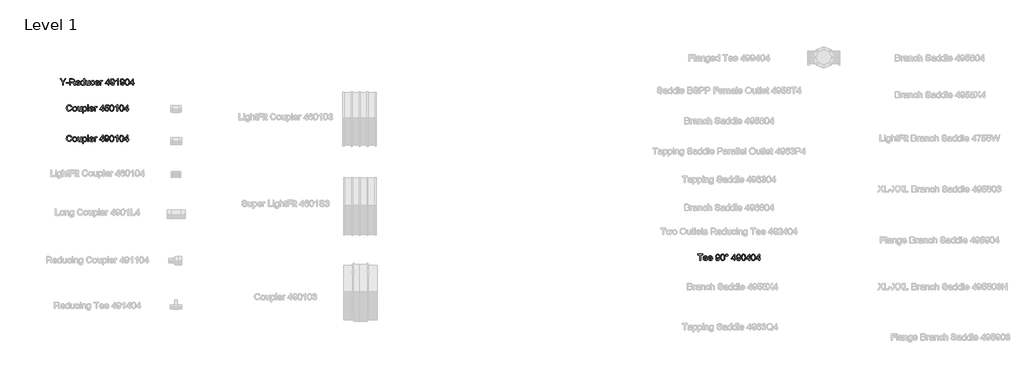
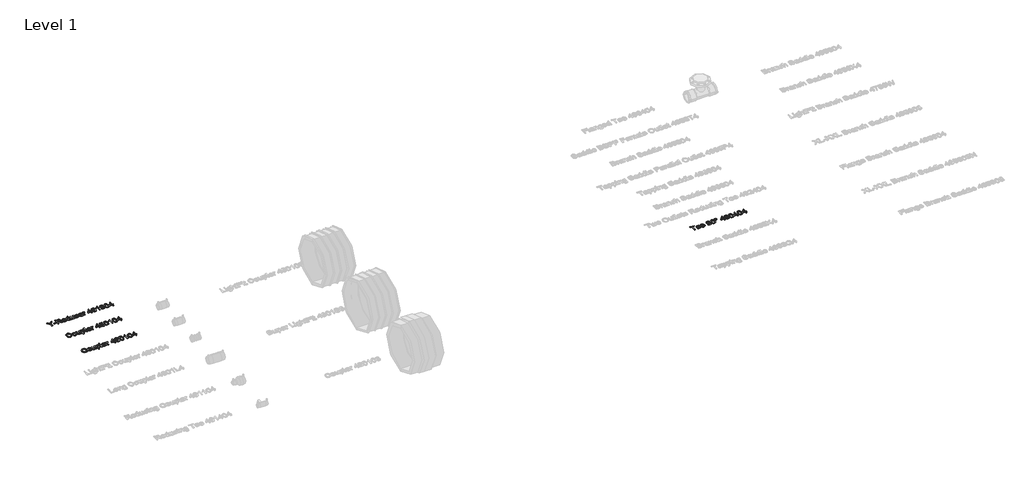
# One storey, part 6 of 38: 4 proxies.
"""IFC4 building model written with IfcOpenShell, lengths in millimetres."""

from ifc_helpers import new_model, si_unit, origin, origin_with_axes, place, context, project, spatial, polyline, outline, extrude, element, save

model = new_model("IFC4")

# Units and contexts
model_context = context("Model", 3, world=origin())
ifc_project = project(units=[si_unit("LENGTHUNIT", "METRE", prefix="MILLI")], contexts=[model_context])

# Site, building, storey
site = spatial("IfcSite", under=ifc_project)
building = spatial("IfcBuilding", under=site)
storey = spatial("IfcBuildingStorey", under=building, Name="Level 1", Elevation=0.0)

# Proxies
placement = place(None, origin())
element("IfcBuildingElementProxy", 1, Name="100 mm Arial", ObjectType="100 mm Arial", at=placement, inside=storey, context=model_context, shape_type="SweptSolid", body=[
    extrude(outline(polyline([(921.7356093, 4714.3643675), (921.7356093, 4739.3884059), (898.6586863, 4773.4412905), (907.3702247, 4773.4412905), (919.6875324, 4755.2537905), (925.990417, 4745.9797521), (932.3077247, 4755.9172521), (943.4856093, 4773.4412905), (952.1971478, 4773.4412905), (929.1202247, 4739.3884059), (929.1202247, 4714.3643675), (921.7356093, 4714.3643675)])), origin_with_axes(), (0.0, 0.0, 1.0), 5.0),
    extrude(outline(polyline([(954.0433016, 4731.902829), (954.0433016, 4739.2874444), (977.1202247, 4739.2874444), (977.1202247, 4731.902829), (954.0433016, 4731.902829)])), origin_with_axes(), (0.0, 0.0, 1.0), 5.0),
    extrude(outline(polyline([(986.3509939, 4714.3643675), (986.3509939, 4773.4412905), (1011.8077247, 4773.4412905), (1023.6274363, 4771.8475405), (1030.0889747, 4766.2081175), (1032.5048401, 4757.2730213), (1028.5024363, 4746.6287905), (1016.1346478, 4741.1335982), (1020.3317632, 4737.9749444), (1026.3173401, 4730.3739828), (1036.1683016, 4714.3643675), (1027.5865709, 4714.3643675), (1019.8990709, 4726.6095598), (1014.3461863, 4734.715329), (1010.4447439, 4738.5446559), (1006.9327247, 4739.9509059), (1002.6490709, 4740.2105213), (993.7356093, 4740.2105213), (993.7356093, 4714.3643675), (986.3509939, 4714.3643675)]), holes=[polyline([(993.7356093, 4747.5951367), (1010.2644555, 4747.5951367), (1018.6947439, 4748.6408098), (1023.4832055, 4751.9869636), (1025.1202247, 4756.9989828), (1021.9976286, 4763.5037905), (1012.1250324, 4766.0566752), (993.7356093, 4766.0566752), (993.7356093, 4747.5951367)])]), origin_with_axes(), (0.0, 0.0, 1.0), 5.0),
    extrude(outline(polyline([(1074.8798401, 4727.2874444), (1082.1202247, 4726.3643675), (1075.3485901, 4716.8307136), (1062.7356093, 4713.4412905), (1054.0709459, 4714.90343), (1047.4038786, 4719.2898482), (1043.1526766, 4726.3156896), (1041.7356093, 4735.6960982), (1043.1670997, 4745.3920117), (1047.4615709, 4752.6432136), (1054.0384939, 4757.1648482), (1062.3173401, 4758.6720598), (1070.3383738, 4757.168454), (1076.7476286, 4752.6576367), (1080.9501526, 4745.4208578), (1082.3509939, 4735.7393675), (1082.3077247, 4733.7489828), (1049.1202247, 4733.7489828), (1053.3678209, 4724.1576367), (1062.8798401, 4720.8259059), (1070.1202247, 4722.3691752), (1074.8798401, 4727.2874444)]), holes=[polyline([(1049.1202247, 4741.1335982), (1074.9663786, 4741.1335982), (1072.0096478, 4747.8259059), (1062.2884939, 4751.2874444), (1053.1947439, 4748.5254252), (1049.1202247, 4741.1335982)])]), origin_with_axes(), (0.0, 0.0, 1.0), 5.0),
    extrude(outline(polyline([(1116.5048401, 4714.3643675), (1116.5048401, 4721.3307136), (1111.6190228, 4715.4136463), (1104.865417, 4713.4412905), (1095.7211863, 4716.2970598), (1089.2596478, 4724.2658098), (1086.9663786, 4736.0134059), (1089.0793593, 4747.7682136), (1095.4110901, 4755.8595598), (1104.8365709, 4758.6720598), (1111.6442632, 4756.6600405), (1116.5048401, 4751.4316752), (1116.5048401, 4773.4412905), (1123.8894555, 4773.4412905), (1123.8894555, 4714.3643675), (1116.5048401, 4714.3643675)]), holes=[polyline([(1094.3509939, 4736.0422521), (1097.6827247, 4724.6119636), (1105.5433016, 4720.8259059), (1113.3101286, 4724.4388867), (1116.5048401, 4735.4797521), (1113.2524363, 4747.465329), (1105.240417, 4751.2874444), (1097.4663786, 4747.6167713), (1094.3509939, 4736.0422521)])]), origin_with_axes(), (0.0, 0.0, 1.0), 5.0),
    extrude(outline(polyline([(1162.6586863, 4714.3643675), (1162.6586863, 4721.8210982), (1156.8750324, 4715.5362425), (1149.3317632, 4713.4412905), (1142.3870516, 4714.9124444), (1137.5985901, 4718.6047521), (1135.3990709, 4724.0422521), (1134.9663786, 4730.9076367), (1134.9663786, 4757.7489828), (1142.3509939, 4757.7489828), (1142.3509939, 4734.3835982), (1142.7981093, 4726.8547521), (1145.7187824, 4722.434079), (1151.2211863, 4720.8259059), (1157.3870516, 4722.4701367), (1161.4615709, 4726.9485021), (1162.6586863, 4735.1768675), (1162.6586863, 4757.7489828), (1170.0433016, 4757.7489828), (1170.0433016, 4714.3643675), (1162.6586863, 4714.3643675)])), origin_with_axes(), (0.0, 0.0, 1.0), 5.0),
    extrude(outline(polyline([(1207.8894555, 4730.0566752), (1215.2740709, 4729.1335982), (1209.3461863, 4717.6023482), (1197.6346478, 4713.4412905), (1189.7794795, 4714.8926127), (1183.6370516, 4719.246579), (1179.6725084, 4726.3120838), (1178.3509939, 4735.8980213), (1180.6082055, 4748.1648482), (1187.4880132, 4756.0470598), (1197.5336863, 4758.6720598), (1208.7620516, 4755.0662905), (1214.3509939, 4744.8259059), (1206.9663786, 4743.902829), (1203.5408978, 4749.434079), (1197.5913786, 4751.2874444), (1189.0312824, 4747.6384059), (1185.7356093, 4736.0999444), (1188.959167, 4724.4533098), (1197.3894555, 4720.8259059), (1204.3485901, 4723.090329), (1207.8894555, 4730.0566752)])), origin_with_axes(), (0.0, 0.0, 1.0), 5.0),
    extrude(outline(polyline([(1252.1106093, 4727.2874444), (1259.3509939, 4726.3643675), (1252.5793593, 4716.8307136), (1239.9663786, 4713.4412905), (1231.3017151, 4714.90343), (1224.6346478, 4719.2898482), (1220.3834459, 4726.3156896), (1218.9663786, 4735.6960982), (1220.3978689, 4745.3920117), (1224.6923401, 4752.6432136), (1231.2692632, 4757.1648482), (1239.5481093, 4758.6720598), (1247.569143, 4757.168454), (1253.9783978, 4752.6576367), (1258.1809218, 4745.4208578), (1259.5817632, 4735.7393675), (1259.5384939, 4733.7489828), (1226.3509939, 4733.7489828), (1230.5985901, 4724.1576367), (1240.1106093, 4720.8259059), (1247.3509939, 4722.3691752), (1252.1106093, 4727.2874444)]), holes=[polyline([(1226.3509939, 4741.1335982), (1252.1971478, 4741.1335982), (1249.240417, 4747.8259059), (1239.5192632, 4751.2874444), (1230.4255132, 4748.5254252), (1226.3509939, 4741.1335982)])]), origin_with_axes(), (0.0, 0.0, 1.0), 5.0),
    extrude(outline(polyline([(1266.9663786, 4714.3643675), (1266.9663786, 4757.7489828), (1273.427917, 4757.7489828), (1273.427917, 4751.3307136), (1278.0144555, 4757.2441752), (1282.6298401, 4758.6720598), (1290.0433016, 4756.3932136), (1287.5769555, 4749.7730213), (1282.3846478, 4751.2874444), (1278.209167, 4749.8307136), (1275.5481093, 4745.7922521), (1274.3509939, 4737.1672521), (1274.3509939, 4714.3643675), (1266.9663786, 4714.3643675)])), origin_with_axes(), (0.0, 0.0, 1.0), 5.0),
    extrude(outline(polyline([(1339.8894555, 4714.3643675), (1339.8894555, 4728.2105213), (1313.1202247, 4728.2105213), (1313.1202247, 4735.5951367), (1341.7356093, 4772.5182136), (1347.2740709, 4772.5182136), (1347.2740709, 4735.5951367), (1354.6586863, 4735.5951367), (1354.6586863, 4728.2105213), (1347.2740709, 4728.2105213), (1347.2740709, 4714.3643675), (1339.8894555, 4714.3643675)]), holes=[polyline([(1339.8894555, 4735.5951367), (1339.8894555, 4758.4124444), (1322.2067632, 4735.5951367), (1339.8894555, 4735.5951367)])]), origin_with_axes(), (0.0, 0.0, 1.0), 5.0),
    extrude(outline(polyline([(1362.0433016, 4729.1335982), (1369.427917, 4730.0566752), (1372.7452247, 4723.0110021), (1379.0336863, 4720.8259059), (1385.0120516, 4722.2321559), (1389.0649363, 4725.9893675), (1391.4808016, 4732.4076367), (1392.5481093, 4740.9749444), (1386.5985901, 4736.8210982), (1378.5000324, 4734.6720598), (1366.1610901, 4739.9220598), (1361.1202247, 4753.7537905), (1366.4062824, 4768.0326367), (1379.6538786, 4773.4412905), (1390.1755132, 4770.3547521), (1397.4158978, 4761.5566752), (1399.8894555, 4745.027829), (1397.4231093, 4727.0927328), (1390.0889747, 4716.9316752), (1378.6875324, 4713.4412905), (1367.3365709, 4717.559079), (1362.0433016, 4729.1335982)]), holes=[polyline([(1392.5048401, 4753.9268675), (1389.3173401, 4762.7826367), (1380.8509939, 4766.0566752), (1371.9663786, 4762.5302328), (1368.5048401, 4753.3932136), (1371.7788786, 4745.2081175), (1380.6490709, 4742.0566752), (1389.1658978, 4745.2081175), (1392.5048401, 4753.9268675)])]), origin_with_axes(), (0.0, 0.0, 1.0), 5.0),
    extrude(outline(polyline([(1434.0433016, 4714.3643675), (1426.6586863, 4714.3643675), (1426.6586863, 4760.402829), (1419.6634939, 4755.4196559), (1411.8894555, 4751.6912905), (1411.8894555, 4758.6720598), (1422.7139747, 4765.5807136), (1429.2836863, 4773.4412905), (1434.0433016, 4773.4412905), (1434.0433016, 4714.3643675)])), origin_with_axes(), (0.0, 0.0, 1.0), 5.0),
    extrude(outline(polyline([(1452.5048401, 4729.1335982), (1459.8894555, 4730.0566752), (1463.2067632, 4723.0110021), (1469.4952247, 4720.8259059), (1475.4735901, 4722.2321559), (1479.5264747, 4725.9893675), (1481.9423401, 4732.4076367), (1483.0096478, 4740.9749444), (1477.0601286, 4736.8210982), (1468.9615709, 4734.6720598), (1456.6226286, 4739.9220598), (1451.5817632, 4753.7537905), (1456.8678209, 4768.0326367), (1470.115417, 4773.4412905), (1480.6370516, 4770.3547521), (1487.8774363, 4761.5566752), (1490.3509939, 4745.027829), (1487.8846478, 4727.0927328), (1480.5505132, 4716.9316752), (1469.1490709, 4713.4412905), (1457.7981093, 4717.559079), (1452.5048401, 4729.1335982)]), holes=[polyline([(1482.9663786, 4753.9268675), (1479.7788786, 4762.7826367), (1471.3125324, 4766.0566752), (1462.427917, 4762.5302328), (1458.9663786, 4753.3932136), (1462.240417, 4745.2081175), (1471.1106093, 4742.0566752), (1479.6274363, 4745.2081175), (1482.9663786, 4753.9268675)])]), origin_with_axes(), (0.0, 0.0, 1.0), 5.0),
    extrude(outline(polyline([(1496.8125324, 4743.4268675), (1498.9832055, 4760.4244636), (1505.4303209, 4770.2249444), (1516.1971478, 4773.4412905), (1524.8221478, 4771.5374444), (1530.7788786, 4766.0494636), (1534.240417, 4757.309079), (1535.5817632, 4743.4268675), (1533.4327247, 4726.5013867), (1527.0072439, 4716.6792713), (1516.1971478, 4713.4412905), (1508.5240709, 4714.8475405), (1502.6971478, 4719.0662905), (1498.2836863, 4729.0578771), (1496.8125324, 4743.4268675)]), holes=[polyline([(1504.1971478, 4743.4412905), (1507.6586863, 4725.1023482), (1516.1971478, 4720.8259059), (1524.7356093, 4725.1167713), (1528.1971478, 4743.4412905), (1524.8509939, 4761.5710982), (1516.1106093, 4766.0566752), (1507.7740709, 4762.1047521), (1504.1971478, 4743.4412905)])]), origin_with_axes(), (0.0, 0.0, 1.0), 5.0),
    extrude(outline(polyline([(1566.0433016, 4714.3643675), (1566.0433016, 4728.2105213), (1539.2740709, 4728.2105213), (1539.2740709, 4735.5951367), (1567.8894555, 4772.5182136), (1573.427917, 4772.5182136), (1573.427917, 4735.5951367), (1580.8125324, 4735.5951367), (1580.8125324, 4728.2105213), (1573.427917, 4728.2105213), (1573.427917, 4714.3643675), (1566.0433016, 4714.3643675)]), holes=[polyline([(1566.0433016, 4735.5951367), (1566.0433016, 4758.4124444), (1548.3606093, 4735.5951367), (1566.0433016, 4735.5951367)])]), origin_with_axes(), (0.0, 0.0, 1.0), 5.0),
])
element("IfcBuildingElementProxy", 2, Name="100 mm Arial", ObjectType="100 mm Arial", at=placement, inside=storey, context=model_context, shape_type="SweptSolid", body=[
    extrude(outline(polyline([(998.8125324, 4495.3643675), (1006.1971478, 4493.4605213), (997.4423401, 4478.5686944), (981.9808016, 4473.4412905), (966.6130132, 4477.3210982), (957.5985901, 4488.5566752), (954.5048401, 4504.3499444), (958.0024363, 4520.402829), (967.9471478, 4530.809079), (982.1394555, 4534.3643675), (996.9303209, 4529.7634059), (1005.2740709, 4516.8114828), (997.8894555, 4515.0518675), (991.8317632, 4524.1311944), (981.8509939, 4526.9797521), (970.2981093, 4523.8210982), (963.771667, 4515.340329), (961.8894555, 4504.3643675), (964.1178209, 4491.6432136), (971.0553209, 4483.5158098), (981.2452247, 4480.8259059), (992.5457055, 4484.4893675), (998.8125324, 4495.3643675)])), origin_with_axes(), (0.0, 0.0, 1.0), 5.0),
    extrude(outline(polyline([(1013.5817632, 4496.0566752), (1015.1791189, 4506.5170117), (1019.9711863, 4513.8691752), (1032.9808016, 4518.6720598), (1040.7386141, 4517.2099203), (1046.9351286, 4512.8235021), (1050.9970276, 4505.8589588), (1052.3509939, 4496.6624444), (1049.9567632, 4483.5230213), (1042.9832055, 4476.0879252), (1032.9808016, 4473.4412905), (1025.1292391, 4474.8980213), (1018.9399363, 4479.2682136), (1014.9213064, 4486.3787905), (1013.5817632, 4496.0566752)]), holes=[polyline([(1020.9663786, 4496.0710982), (1024.3846478, 4484.6263867), (1032.9808016, 4480.8259059), (1041.5481093, 4484.6480213), (1044.9663786, 4496.3018675), (1041.5264747, 4507.4869636), (1032.9808016, 4511.2874444), (1024.3846478, 4507.5013867), (1020.9663786, 4496.0710982)])]), origin_with_axes(), (0.0, 0.0, 1.0), 5.0),
    extrude(outline(polyline([(1088.3509939, 4474.3643675), (1088.3509939, 4481.8210982), (1082.5673401, 4475.5362425), (1075.0240709, 4473.4412905), (1068.0793593, 4474.9124444), (1063.2908978, 4478.6047521), (1061.0913786, 4484.0422521), (1060.6586863, 4490.9076367), (1060.6586863, 4517.7489828), (1068.0433016, 4517.7489828), (1068.0433016, 4494.3835982), (1068.490417, 4486.8547521), (1071.4110901, 4482.434079), (1076.9134939, 4480.8259059), (1083.0793593, 4482.4701367), (1087.1538786, 4486.9485021), (1088.3509939, 4495.1768675), (1088.3509939, 4517.7489828), (1095.7356093, 4517.7489828), (1095.7356093, 4474.3643675), (1088.3509939, 4474.3643675)])), origin_with_axes(), (0.0, 0.0, 1.0), 5.0),
    extrude(outline(polyline([(1105.8894555, 4457.7489828), (1105.8894555, 4517.7489828), (1113.2740709, 4517.7489828), (1113.2740709, 4510.5085982), (1118.3798401, 4516.6311944), (1125.2740709, 4518.6720598), (1134.6346478, 4515.8162905), (1140.7500324, 4507.7682136), (1142.8125324, 4496.3884059), (1140.4832055, 4484.4244636), (1133.7187824, 4476.2754252), (1124.3798401, 4473.4412905), (1117.9543593, 4475.3379252), (1113.2740709, 4480.1335982), (1113.2740709, 4457.7489828), (1105.8894555, 4457.7489828)]), holes=[polyline([(1113.2740709, 4495.7105213), (1116.4687824, 4484.4605213), (1124.2211863, 4480.8259059), (1132.1322439, 4484.590329), (1135.427917, 4496.2585982), (1132.2115709, 4507.5374444), (1124.5240709, 4511.2874444), (1116.6851286, 4507.2994636), (1113.2740709, 4495.7105213)])]), origin_with_axes(), (0.0, 0.0, 1.0), 5.0),
    extrude(outline(polyline([(1151.1202247, 4474.3643675), (1151.1202247, 4533.4412905), (1158.5048401, 4533.4412905), (1158.5048401, 4474.3643675), (1151.1202247, 4474.3643675)])), origin_with_axes(), (0.0, 0.0, 1.0), 5.0),
    extrude(outline(polyline([(1199.9567632, 4487.2874444), (1207.1971478, 4486.3643675), (1200.4255132, 4476.8307136), (1187.8125324, 4473.4412905), (1179.1478689, 4474.90343), (1172.4808016, 4479.2898482), (1168.2295997, 4486.3156896), (1166.8125324, 4495.6960982), (1168.2440228, 4505.3920117), (1172.5384939, 4512.6432136), (1179.115417, 4517.1648482), (1187.3942632, 4518.6720598), (1195.4152968, 4517.168454), (1201.8245516, 4512.6576367), (1206.0270757, 4505.4208578), (1207.427917, 4495.7393675), (1207.3846478, 4493.7489828), (1174.1971478, 4493.7489828), (1178.4447439, 4484.1576367), (1187.9567632, 4480.8259059), (1195.1971478, 4482.3691752), (1199.9567632, 4487.2874444)]), holes=[polyline([(1174.1971478, 4501.1335982), (1200.0433016, 4501.1335982), (1197.0865709, 4507.8259059), (1187.365417, 4511.2874444), (1178.271667, 4508.5254252), (1174.1971478, 4501.1335982)])]), origin_with_axes(), (0.0, 0.0, 1.0), 5.0),
    extrude(outline(polyline([(1214.8125324, 4474.3643675), (1214.8125324, 4517.7489828), (1221.2740709, 4517.7489828), (1221.2740709, 4511.3307136), (1225.8606093, 4517.2441752), (1230.4759939, 4518.6720598), (1237.8894555, 4516.3932136), (1235.4231093, 4509.7730213), (1230.2308016, 4511.2874444), (1226.0553209, 4509.8307136), (1223.3942632, 4505.7922521), (1222.1971478, 4497.1672521), (1222.1971478, 4474.3643675), (1214.8125324, 4474.3643675)])), origin_with_axes(), (0.0, 0.0, 1.0), 5.0),
    extrude(outline(polyline([(1287.7356093, 4474.3643675), (1287.7356093, 4488.2105213), (1260.9663786, 4488.2105213), (1260.9663786, 4495.5951367), (1289.5817632, 4532.5182136), (1295.1202247, 4532.5182136), (1295.1202247, 4495.5951367), (1302.5048401, 4495.5951367), (1302.5048401, 4488.2105213), (1295.1202247, 4488.2105213), (1295.1202247, 4474.3643675), (1287.7356093, 4474.3643675)]), holes=[polyline([(1287.7356093, 4495.5951367), (1287.7356093, 4518.4124444), (1270.052917, 4495.5951367), (1287.7356093, 4495.5951367)])]), origin_with_axes(), (0.0, 0.0, 1.0), 5.0),
    extrude(outline(polyline([(1308.9663786, 4490.0566752), (1316.3509939, 4490.9797521), (1320.0721478, 4483.371579), (1327.7884939, 4480.8259059), (1337.0481093, 4484.3667713), (1340.3509939, 4493.7634059), (1337.2572439, 4502.5326367), (1327.9038786, 4505.7489828), (1321.4207055, 4504.465329), (1317.2740709, 4501.1335982), (1309.8894555, 4502.0566752), (1316.3509939, 4532.5182136), (1344.9663786, 4532.5182136), (1344.9663786, 4525.1335982), (1322.3221478, 4525.1335982), (1319.1634939, 4508.8643675), (1329.9663786, 4513.1335982), (1342.5937824, 4507.840329), (1347.7356093, 4494.2249444), (1343.1058016, 4480.5230213), (1336.4567632, 4475.2117232), (1327.7596478, 4473.4412905), (1314.7283978, 4477.9917713), (1308.9663786, 4490.0566752)])), origin_with_axes(), (0.0, 0.0, 1.0), 5.0),
    extrude(outline(polyline([(1354.1971478, 4503.4268675), (1356.3678209, 4520.4244636), (1362.8149363, 4530.2249444), (1373.5817632, 4533.4412905), (1382.2067632, 4531.5374444), (1388.1634939, 4526.0494636), (1391.6250324, 4517.309079), (1392.9663786, 4503.4268675), (1390.8173401, 4486.5013867), (1384.3918593, 4476.6792713), (1373.5817632, 4473.4412905), (1365.9086863, 4474.8475405), (1360.0817632, 4479.0662905), (1355.6683016, 4489.0578771), (1354.1971478, 4503.4268675)]), holes=[polyline([(1361.5817632, 4503.4412905), (1365.0433016, 4485.1023482), (1373.5817632, 4480.8259059), (1382.1202247, 4485.1167713), (1385.5817632, 4503.4412905), (1382.2356093, 4521.5710982), (1373.4952247, 4526.0566752), (1365.1586863, 4522.1047521), (1361.5817632, 4503.4412905)])]), origin_with_axes(), (0.0, 0.0, 1.0), 5.0),
    extrude(outline(polyline([(1427.1202247, 4474.3643675), (1419.7356093, 4474.3643675), (1419.7356093, 4520.402829), (1412.740417, 4515.4196559), (1404.9663786, 4511.6912905), (1404.9663786, 4518.6720598), (1415.7908978, 4525.5807136), (1422.3606093, 4533.4412905), (1427.1202247, 4533.4412905), (1427.1202247, 4474.3643675)])), origin_with_axes(), (0.0, 0.0, 1.0), 5.0),
    extrude(outline(polyline([(1444.6586863, 4503.4268675), (1446.8293593, 4520.4244636), (1453.2764747, 4530.2249444), (1464.0433016, 4533.4412905), (1472.6683016, 4531.5374444), (1478.6250324, 4526.0494636), (1482.0865709, 4517.309079), (1483.427917, 4503.4268675), (1481.2788786, 4486.5013867), (1474.8533978, 4476.6792713), (1464.0433016, 4473.4412905), (1456.3702247, 4474.8475405), (1450.5433016, 4479.0662905), (1446.1298401, 4489.0578771), (1444.6586863, 4503.4268675)]), holes=[polyline([(1452.0433016, 4503.4412905), (1455.5048401, 4485.1023482), (1464.0433016, 4480.8259059), (1472.5817632, 4485.1167713), (1476.0433016, 4503.4412905), (1472.6971478, 4521.5710982), (1463.9567632, 4526.0566752), (1455.6202247, 4522.1047521), (1452.0433016, 4503.4412905)])]), origin_with_axes(), (0.0, 0.0, 1.0), 5.0),
    extrude(outline(polyline([(1513.8894555, 4474.3643675), (1513.8894555, 4488.2105213), (1487.1202247, 4488.2105213), (1487.1202247, 4495.5951367), (1515.7356093, 4532.5182136), (1521.2740709, 4532.5182136), (1521.2740709, 4495.5951367), (1528.6586863, 4495.5951367), (1528.6586863, 4488.2105213), (1521.2740709, 4488.2105213), (1521.2740709, 4474.3643675), (1513.8894555, 4474.3643675)]), holes=[polyline([(1513.8894555, 4495.5951367), (1513.8894555, 4518.4124444), (1496.2067632, 4495.5951367), (1513.8894555, 4495.5951367)])]), origin_with_axes(), (0.0, 0.0, 1.0), 5.0),
])
element("IfcBuildingElementProxy", 3, Name="100 mm Arial", ObjectType="100 mm Arial", at=placement, inside=storey, context=model_context, shape_type="SweptSolid", body=[
    extrude(outline(polyline([(998.8125324, 4215.3643675), (1006.1971478, 4213.4605213), (997.4423401, 4198.5686944), (981.9808016, 4193.4412905), (966.6130132, 4197.3210982), (957.5985901, 4208.5566752), (954.5048401, 4224.3499444), (958.0024363, 4240.402829), (967.9471478, 4250.809079), (982.1394555, 4254.3643675), (996.9303209, 4249.7634059), (1005.2740709, 4236.8114828), (997.8894555, 4235.0518675), (991.8317632, 4244.1311944), (981.8509939, 4246.9797521), (970.2981093, 4243.8210982), (963.771667, 4235.340329), (961.8894555, 4224.3643675), (964.1178209, 4211.6432136), (971.0553209, 4203.5158098), (981.2452247, 4200.8259059), (992.5457055, 4204.4893675), (998.8125324, 4215.3643675)])), origin_with_axes(), (0.0, 0.0, 1.0), 5.0),
    extrude(outline(polyline([(1013.5817632, 4216.0566752), (1015.1791189, 4226.5170117), (1019.9711863, 4233.8691752), (1032.9808016, 4238.6720598), (1040.7386141, 4237.2099203), (1046.9351286, 4232.8235021), (1050.9970276, 4225.8589588), (1052.3509939, 4216.6624444), (1049.9567632, 4203.5230213), (1042.9832055, 4196.0879252), (1032.9808016, 4193.4412905), (1025.1292391, 4194.8980213), (1018.9399363, 4199.2682136), (1014.9213064, 4206.3787905), (1013.5817632, 4216.0566752)]), holes=[polyline([(1020.9663786, 4216.0710982), (1024.3846478, 4204.6263867), (1032.9808016, 4200.8259059), (1041.5481093, 4204.6480213), (1044.9663786, 4216.3018675), (1041.5264747, 4227.4869636), (1032.9808016, 4231.2874444), (1024.3846478, 4227.5013867), (1020.9663786, 4216.0710982)])]), origin_with_axes(), (0.0, 0.0, 1.0), 5.0),
    extrude(outline(polyline([(1088.3509939, 4194.3643675), (1088.3509939, 4201.8210982), (1082.5673401, 4195.5362425), (1075.0240709, 4193.4412905), (1068.0793593, 4194.9124444), (1063.2908978, 4198.6047521), (1061.0913786, 4204.0422521), (1060.6586863, 4210.9076367), (1060.6586863, 4237.7489828), (1068.0433016, 4237.7489828), (1068.0433016, 4214.3835982), (1068.490417, 4206.8547521), (1071.4110901, 4202.434079), (1076.9134939, 4200.8259059), (1083.0793593, 4202.4701367), (1087.1538786, 4206.9485021), (1088.3509939, 4215.1768675), (1088.3509939, 4237.7489828), (1095.7356093, 4237.7489828), (1095.7356093, 4194.3643675), (1088.3509939, 4194.3643675)])), origin_with_axes(), (0.0, 0.0, 1.0), 5.0),
    extrude(outline(polyline([(1105.8894555, 4177.7489828), (1105.8894555, 4237.7489828), (1113.2740709, 4237.7489828), (1113.2740709, 4230.5085982), (1118.3798401, 4236.6311944), (1125.2740709, 4238.6720598), (1134.6346478, 4235.8162905), (1140.7500324, 4227.7682136), (1142.8125324, 4216.3884059), (1140.4832055, 4204.4244636), (1133.7187824, 4196.2754252), (1124.3798401, 4193.4412905), (1117.9543593, 4195.3379252), (1113.2740709, 4200.1335982), (1113.2740709, 4177.7489828), (1105.8894555, 4177.7489828)]), holes=[polyline([(1113.2740709, 4215.7105213), (1116.4687824, 4204.4605213), (1124.2211863, 4200.8259059), (1132.1322439, 4204.590329), (1135.427917, 4216.2585982), (1132.2115709, 4227.5374444), (1124.5240709, 4231.2874444), (1116.6851286, 4227.2994636), (1113.2740709, 4215.7105213)])]), origin_with_axes(), (0.0, 0.0, 1.0), 5.0),
    extrude(outline(polyline([(1151.1202247, 4194.3643675), (1151.1202247, 4253.4412905), (1158.5048401, 4253.4412905), (1158.5048401, 4194.3643675), (1151.1202247, 4194.3643675)])), origin_with_axes(), (0.0, 0.0, 1.0), 5.0),
    extrude(outline(polyline([(1199.9567632, 4207.2874444), (1207.1971478, 4206.3643675), (1200.4255132, 4196.8307136), (1187.8125324, 4193.4412905), (1179.1478689, 4194.90343), (1172.4808016, 4199.2898482), (1168.2295997, 4206.3156896), (1166.8125324, 4215.6960982), (1168.2440228, 4225.3920117), (1172.5384939, 4232.6432136), (1179.115417, 4237.1648482), (1187.3942632, 4238.6720598), (1195.4152968, 4237.168454), (1201.8245516, 4232.6576367), (1206.0270757, 4225.4208578), (1207.427917, 4215.7393675), (1207.3846478, 4213.7489828), (1174.1971478, 4213.7489828), (1178.4447439, 4204.1576367), (1187.9567632, 4200.8259059), (1195.1971478, 4202.3691752), (1199.9567632, 4207.2874444)]), holes=[polyline([(1174.1971478, 4221.1335982), (1200.0433016, 4221.1335982), (1197.0865709, 4227.8259059), (1187.365417, 4231.2874444), (1178.271667, 4228.5254252), (1174.1971478, 4221.1335982)])]), origin_with_axes(), (0.0, 0.0, 1.0), 5.0),
    extrude(outline(polyline([(1214.8125324, 4194.3643675), (1214.8125324, 4237.7489828), (1221.2740709, 4237.7489828), (1221.2740709, 4231.3307136), (1225.8606093, 4237.2441752), (1230.4759939, 4238.6720598), (1237.8894555, 4236.3932136), (1235.4231093, 4229.7730213), (1230.2308016, 4231.2874444), (1226.0553209, 4229.8307136), (1223.3942632, 4225.7922521), (1222.1971478, 4217.1672521), (1222.1971478, 4194.3643675), (1214.8125324, 4194.3643675)])), origin_with_axes(), (0.0, 0.0, 1.0), 5.0),
    extrude(outline(polyline([(1287.7356093, 4194.3643675), (1287.7356093, 4208.2105213), (1260.9663786, 4208.2105213), (1260.9663786, 4215.5951367), (1289.5817632, 4252.5182136), (1295.1202247, 4252.5182136), (1295.1202247, 4215.5951367), (1302.5048401, 4215.5951367), (1302.5048401, 4208.2105213), (1295.1202247, 4208.2105213), (1295.1202247, 4194.3643675), (1287.7356093, 4194.3643675)]), holes=[polyline([(1287.7356093, 4215.5951367), (1287.7356093, 4238.4124444), (1270.052917, 4215.5951367), (1287.7356093, 4215.5951367)])]), origin_with_axes(), (0.0, 0.0, 1.0), 5.0),
    extrude(outline(polyline([(1309.8894555, 4209.1335982), (1317.2740709, 4210.0566752), (1320.5913786, 4203.0110021), (1326.8798401, 4200.8259059), (1332.8582055, 4202.2321559), (1336.9110901, 4205.9893675), (1339.3269555, 4212.4076367), (1340.3942632, 4220.9749444), (1334.4447439, 4216.8210982), (1326.3461863, 4214.6720598), (1314.0072439, 4219.9220598), (1308.9663786, 4233.7537905), (1314.2524363, 4248.0326367), (1327.5000324, 4253.4412905), (1338.021667, 4250.3547521), (1345.2620516, 4241.5566752), (1347.7356093, 4225.027829), (1345.2692632, 4207.0927328), (1337.9351286, 4196.9316752), (1326.5336863, 4193.4412905), (1315.1827247, 4197.559079), (1309.8894555, 4209.1335982)]), holes=[polyline([(1340.3509939, 4233.9268675), (1337.1634939, 4242.7826367), (1328.6971478, 4246.0566752), (1319.8125324, 4242.5302328), (1316.3509939, 4233.3932136), (1319.6250324, 4225.2081175), (1328.4952247, 4222.0566752), (1337.0120516, 4225.2081175), (1340.3509939, 4233.9268675)])]), origin_with_axes(), (0.0, 0.0, 1.0), 5.0),
    extrude(outline(polyline([(1354.1971478, 4223.4268675), (1356.3678209, 4240.4244636), (1362.8149363, 4250.2249444), (1373.5817632, 4253.4412905), (1382.2067632, 4251.5374444), (1388.1634939, 4246.0494636), (1391.6250324, 4237.309079), (1392.9663786, 4223.4268675), (1390.8173401, 4206.5013867), (1384.3918593, 4196.6792713), (1373.5817632, 4193.4412905), (1365.9086863, 4194.8475405), (1360.0817632, 4199.0662905), (1355.6683016, 4209.0578771), (1354.1971478, 4223.4268675)]), holes=[polyline([(1361.5817632, 4223.4412905), (1365.0433016, 4205.1023482), (1373.5817632, 4200.8259059), (1382.1202247, 4205.1167713), (1385.5817632, 4223.4412905), (1382.2356093, 4241.5710982), (1373.4952247, 4246.0566752), (1365.1586863, 4242.1047521), (1361.5817632, 4223.4412905)])]), origin_with_axes(), (0.0, 0.0, 1.0), 5.0),
    extrude(outline(polyline([(1427.1202247, 4194.3643675), (1419.7356093, 4194.3643675), (1419.7356093, 4240.402829), (1412.740417, 4235.4196559), (1404.9663786, 4231.6912905), (1404.9663786, 4238.6720598), (1415.7908978, 4245.5807136), (1422.3606093, 4253.4412905), (1427.1202247, 4253.4412905), (1427.1202247, 4194.3643675)])), origin_with_axes(), (0.0, 0.0, 1.0), 5.0),
    extrude(outline(polyline([(1444.6586863, 4223.4268675), (1446.8293593, 4240.4244636), (1453.2764747, 4250.2249444), (1464.0433016, 4253.4412905), (1472.6683016, 4251.5374444), (1478.6250324, 4246.0494636), (1482.0865709, 4237.309079), (1483.427917, 4223.4268675), (1481.2788786, 4206.5013867), (1474.8533978, 4196.6792713), (1464.0433016, 4193.4412905), (1456.3702247, 4194.8475405), (1450.5433016, 4199.0662905), (1446.1298401, 4209.0578771), (1444.6586863, 4223.4268675)]), holes=[polyline([(1452.0433016, 4223.4412905), (1455.5048401, 4205.1023482), (1464.0433016, 4200.8259059), (1472.5817632, 4205.1167713), (1476.0433016, 4223.4412905), (1472.6971478, 4241.5710982), (1463.9567632, 4246.0566752), (1455.6202247, 4242.1047521), (1452.0433016, 4223.4412905)])]), origin_with_axes(), (0.0, 0.0, 1.0), 5.0),
    extrude(outline(polyline([(1513.8894555, 4194.3643675), (1513.8894555, 4208.2105213), (1487.1202247, 4208.2105213), (1487.1202247, 4215.5951367), (1515.7356093, 4252.5182136), (1521.2740709, 4252.5182136), (1521.2740709, 4215.5951367), (1528.6586863, 4215.5951367), (1528.6586863, 4208.2105213), (1521.2740709, 4208.2105213), (1521.2740709, 4194.3643675), (1513.8894555, 4194.3643675)]), holes=[polyline([(1513.8894555, 4215.5951367), (1513.8894555, 4238.4124444), (1496.2067632, 4215.5951367), (1513.8894555, 4215.5951367)])]), origin_with_axes(), (0.0, 0.0, 1.0), 5.0),
])
element("IfcBuildingElementProxy", 4, Name="100 mm Arial", ObjectType="100 mm Arial", at=placement, inside=storey, context=model_context, shape_type="SweptSolid", body=[
    extrude(outline(polyline([(6789.8269995, 3097.5779735), (6789.8269995, 3149.2702812), (6770.4423841, 3149.2702812), (6770.4423841, 3156.6548966), (6816.5962303, 3156.6548966), (6816.5962303, 3149.2702812), (6797.2116149, 3149.2702812), (6797.2116149, 3097.5779735), (6789.8269995, 3097.5779735)])), origin_with_axes(), (0.0, 0.0, 1.0), 5.0),
    extrude(outline(polyline([(6854.3558456, 3110.5010505), (6861.5962303, 3109.5779735), (6854.8245956, 3100.0443197), (6842.2116149, 3096.6548966), (6833.5469514, 3098.117036), (6826.8798841, 3102.5034543), (6822.6286822, 3109.5292957), (6821.2116149, 3118.9097043), (6822.6431053, 3128.6056178), (6826.9375764, 3135.8568197), (6833.5144995, 3140.3784543), (6841.7933456, 3141.8856658), (6849.8143793, 3140.3820601), (6856.2236341, 3135.8712428), (6860.4261581, 3128.6344639), (6861.8269995, 3118.9529735), (6861.7837303, 3116.9625889), (6828.5962303, 3116.9625889), (6832.8438264, 3107.3712428), (6842.3558456, 3104.039512), (6849.5962303, 3105.5827812), (6854.3558456, 3110.5010505)]), holes=[polyline([(6828.5962303, 3124.3472043), (6854.4423841, 3124.3472043), (6851.4856533, 3131.039512), (6841.7644995, 3134.5010505), (6832.6707495, 3131.7390312), (6828.5962303, 3124.3472043)])]), origin_with_axes(), (0.0, 0.0, 1.0), 5.0),
    extrude(outline(polyline([(6899.5866149, 3110.5010505), (6906.8269995, 3109.5779735), (6900.0553649, 3100.0443197), (6887.4423841, 3096.6548966), (6878.7777206, 3098.117036), (6872.1106533, 3102.5034543), (6867.8594514, 3109.5292957), (6866.4423841, 3118.9097043), (6867.8738745, 3128.6056178), (6872.1683456, 3135.8568197), (6878.7452687, 3140.3784543), (6887.0241149, 3141.8856658), (6895.0451485, 3140.3820601), (6901.4544033, 3135.8712428), (6905.6569274, 3128.6344639), (6907.0577687, 3118.9529735), (6907.0144995, 3116.9625889), (6873.8269995, 3116.9625889), (6878.0745956, 3107.3712428), (6887.5866149, 3104.039512), (6894.8269995, 3105.5827812), (6899.5866149, 3110.5010505)]), holes=[polyline([(6873.8269995, 3124.3472043), (6899.6731533, 3124.3472043), (6896.7164226, 3131.039512), (6886.9952687, 3134.5010505), (6877.9015187, 3131.7390312), (6873.8269995, 3124.3472043)])]), origin_with_axes(), (0.0, 0.0, 1.0), 5.0),
    extrude(outline(polyline([(6936.5962303, 3112.3472043), (6943.9808456, 3113.2702812), (6947.2981533, 3106.2246082), (6953.5866149, 3104.039512), (6959.5649803, 3105.445762), (6963.6178649, 3109.2029735), (6966.0337303, 3115.6212428), (6967.101038, 3124.1885505), (6961.1515187, 3120.0347043), (6953.052961, 3117.8856658), (6940.7140187, 3123.1356658), (6935.6731533, 3136.9673966), (6940.959211, 3151.2462428), (6954.2068072, 3156.6548966), (6964.7284418, 3153.5683582), (6971.9688264, 3144.7702812), (6974.4423841, 3128.2414351), (6971.976038, 3110.3063389), (6964.6419033, 3100.1452812), (6953.240461, 3096.6548966), (6941.8894995, 3100.7726851), (6936.5962303, 3112.3472043)]), holes=[polyline([(6967.0577687, 3137.1404735), (6963.8702687, 3145.9962428), (6955.4039226, 3149.2702812), (6946.5193072, 3145.7438389), (6943.0577687, 3136.6068197), (6946.3318072, 3128.4217235), (6955.2019995, 3125.2702812), (6963.7188264, 3128.4217235), (6967.0577687, 3137.1404735)])]), origin_with_axes(), (0.0, 0.0, 1.0), 5.0),
    extrude(outline(polyline([(6980.9039226, 3126.6404735), (6983.0745956, 3143.6380697), (6989.521711, 3153.4385505), (7000.288538, 3156.6548966), (7008.913538, 3154.7510505), (7014.8702687, 3149.2630697), (7018.3318072, 3140.5226851), (7019.6731533, 3126.6404735), (7017.5241149, 3109.7149928), (7011.0986341, 3099.8928774), (7000.288538, 3096.6548966), (6992.615461, 3098.0611466), (6986.788538, 3102.2798966), (6982.3750764, 3112.2714832), (6980.9039226, 3126.6404735)]), holes=[polyline([(6988.288538, 3126.6548966), (6991.7500764, 3108.3159543), (7000.288538, 3104.039512), (7008.8269995, 3108.3303774), (7012.288538, 3126.6548966), (7008.9423841, 3144.7847043), (7000.2019995, 3149.2702812), (6991.865461, 3145.3183582), (6988.288538, 3126.6548966)])]), origin_with_axes(), (0.0, 0.0, 1.0), 5.0),
    extrude(outline(polyline([(7027.9808456, 3146.5154735), (7031.2332495, 3154.3472043), (7039.0433456, 3157.5779735), (7046.9039226, 3154.3472043), (7050.1346918, 3146.5154735), (7046.882288, 3138.6765312), (7039.0433456, 3135.4241274), (7031.2332495, 3138.6548966), (7027.9808456, 3146.5154735)]), holes=[polyline([(7032.5962303, 3146.5010505), (7034.4928649, 3141.9289351), (7039.0721918, 3140.039512), (7043.6226726, 3141.9289351), (7045.5193072, 3146.5010505), (7043.6226726, 3151.0731658), (7039.0721918, 3152.9625889), (7034.4928649, 3151.0731658), (7032.5962303, 3146.5010505)])]), origin_with_axes(), (0.0, 0.0, 1.0), 5.0),
    extrude(outline(polyline([(7106.4423841, 3097.5779735), (7106.4423841, 3111.4241274), (7079.6731533, 3111.4241274), (7079.6731533, 3118.8087428), (7108.288538, 3155.7318197), (7113.8269995, 3155.7318197), (7113.8269995, 3118.8087428), (7121.2116149, 3118.8087428), (7121.2116149, 3111.4241274), (7113.8269995, 3111.4241274), (7113.8269995, 3097.5779735), (7106.4423841, 3097.5779735)]), holes=[polyline([(7106.4423841, 3118.8087428), (7106.4423841, 3141.6260505), (7088.7596918, 3118.8087428), (7106.4423841, 3118.8087428)])]), origin_with_axes(), (0.0, 0.0, 1.0), 5.0),
    extrude(outline(polyline([(7128.5962303, 3112.3472043), (7135.9808456, 3113.2702812), (7139.2981533, 3106.2246082), (7145.5866149, 3104.039512), (7151.5649803, 3105.445762), (7155.6178649, 3109.2029735), (7158.0337303, 3115.6212428), (7159.101038, 3124.1885505), (7153.1515187, 3120.0347043), (7145.052961, 3117.8856658), (7132.7140187, 3123.1356658), (7127.6731533, 3136.9673966), (7132.959211, 3151.2462428), (7146.2068072, 3156.6548966), (7156.7284418, 3153.5683582), (7163.9688264, 3144.7702812), (7166.4423841, 3128.2414351), (7163.976038, 3110.3063389), (7156.6419033, 3100.1452812), (7145.240461, 3096.6548966), (7133.8894995, 3100.7726851), (7128.5962303, 3112.3472043)]), holes=[polyline([(7159.0577687, 3137.1404735), (7155.8702687, 3145.9962428), (7147.4039226, 3149.2702812), (7138.5193072, 3145.7438389), (7135.0577687, 3136.6068197), (7138.3318072, 3128.4217235), (7147.2019995, 3125.2702812), (7155.7188264, 3128.4217235), (7159.0577687, 3137.1404735)])]), origin_with_axes(), (0.0, 0.0, 1.0), 5.0),
    extrude(outline(polyline([(7172.9039226, 3126.6404735), (7175.0745956, 3143.6380697), (7181.521711, 3153.4385505), (7192.288538, 3156.6548966), (7200.913538, 3154.7510505), (7206.8702687, 3149.2630697), (7210.3318072, 3140.5226851), (7211.6731533, 3126.6404735), (7209.5241149, 3109.7149928), (7203.0986341, 3099.8928774), (7192.288538, 3096.6548966), (7184.615461, 3098.0611466), (7178.788538, 3102.2798966), (7174.3750764, 3112.2714832), (7172.9039226, 3126.6404735)]), holes=[polyline([(7180.288538, 3126.6548966), (7183.7500764, 3108.3159543), (7192.288538, 3104.039512), (7200.8269995, 3108.3303774), (7204.288538, 3126.6548966), (7200.9423841, 3144.7847043), (7192.2019995, 3149.2702812), (7183.865461, 3145.3183582), (7180.288538, 3126.6548966)])]), origin_with_axes(), (0.0, 0.0, 1.0), 5.0),
    extrude(outline(polyline([(7242.1346918, 3097.5779735), (7242.1346918, 3111.4241274), (7215.365461, 3111.4241274), (7215.365461, 3118.8087428), (7243.9808456, 3155.7318197), (7249.5193072, 3155.7318197), (7249.5193072, 3118.8087428), (7256.9039226, 3118.8087428), (7256.9039226, 3111.4241274), (7249.5193072, 3111.4241274), (7249.5193072, 3097.5779735), (7242.1346918, 3097.5779735)]), holes=[polyline([(7242.1346918, 3118.8087428), (7242.1346918, 3141.6260505), (7224.4519995, 3118.8087428), (7242.1346918, 3118.8087428)])]), origin_with_axes(), (0.0, 0.0, 1.0), 5.0),
    extrude(outline(polyline([(7263.365461, 3126.6404735), (7265.5361341, 3143.6380697), (7271.9832495, 3153.4385505), (7282.7500764, 3156.6548966), (7291.3750764, 3154.7510505), (7297.3318072, 3149.2630697), (7300.7933456, 3140.5226851), (7302.1346918, 3126.6404735), (7299.9856533, 3109.7149928), (7293.5601726, 3099.8928774), (7282.7500764, 3096.6548966), (7275.0769995, 3098.0611466), (7269.2500764, 3102.2798966), (7264.8366149, 3112.2714832), (7263.365461, 3126.6404735)]), holes=[polyline([(7270.7500764, 3126.6548966), (7274.2116149, 3108.3159543), (7282.7500764, 3104.039512), (7291.288538, 3108.3303774), (7294.7500764, 3126.6548966), (7291.4039226, 3144.7847043), (7282.663538, 3149.2702812), (7274.3269995, 3145.3183582), (7270.7500764, 3126.6548966)])]), origin_with_axes(), (0.0, 0.0, 1.0), 5.0),
    extrude(outline(polyline([(7332.5962303, 3097.5779735), (7332.5962303, 3111.4241274), (7305.8269995, 3111.4241274), (7305.8269995, 3118.8087428), (7334.4423841, 3155.7318197), (7339.9808456, 3155.7318197), (7339.9808456, 3118.8087428), (7347.365461, 3118.8087428), (7347.365461, 3111.4241274), (7339.9808456, 3111.4241274), (7339.9808456, 3097.5779735), (7332.5962303, 3097.5779735)]), holes=[polyline([(7332.5962303, 3118.8087428), (7332.5962303, 3141.6260505), (7314.913538, 3118.8087428), (7332.5962303, 3118.8087428)])]), origin_with_axes(), (0.0, 0.0, 1.0), 5.0),
])

save(model, "model.ifc")
